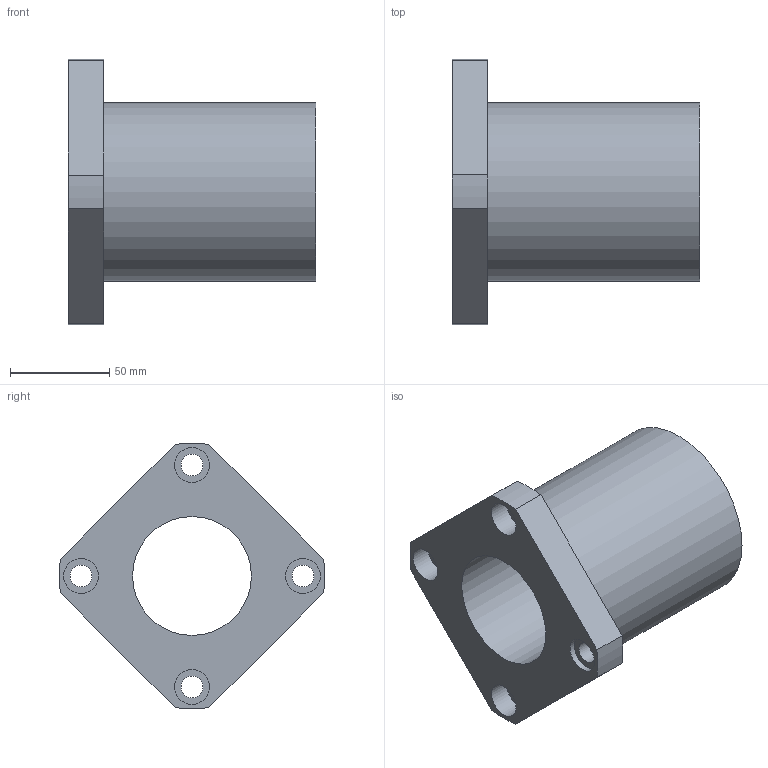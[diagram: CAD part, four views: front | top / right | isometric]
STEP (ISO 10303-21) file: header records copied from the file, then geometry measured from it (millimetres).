
FILE_DESCRIPTION( ( 'STEP AP203' ), '1' );
FILE_NAME( 'p:/temp/worker_10/temp/exporttempdir_2420_951_AcE0y/format_0/LMEK60UU.stp', '2020-05-07T05:47:54', ( 'License CC BY-ND 4.0' ), ( 'CADENAS' ), ' ', 'PARTsolutions', ' ' );
FILE_SCHEMA( ( 'CONFIG_CONTROL_DESIGN' ) );
Length unit declared in the file: millimetre
Products named in the file (1): _LMEK60UU
Bounding box: 125 x 133.88 x 133.88 mm (x, y, z)
Volume: 512762.6 mm3; surface area: 79685.9 mm2
Topology: 1 solids, 1 shells, 25 faces, 55 edges, 37 vertices
Faces by surface type: cylinder 14, plane 11
Full cylindrical faces by diameter (mm): 11 x4, 17.5 x4, 60 x1, 90 x1
Entity records: 710 total; most frequent: DIRECTION 124, CARTESIAN_POINT 106, ORIENTED_EDGE 88, AXIS2_PLACEMENT_3D 54, EDGE_LOOP 50, EDGE_CURVE 44, VERTEX_POINT 36, FACE_OUTER_BOUND 35
